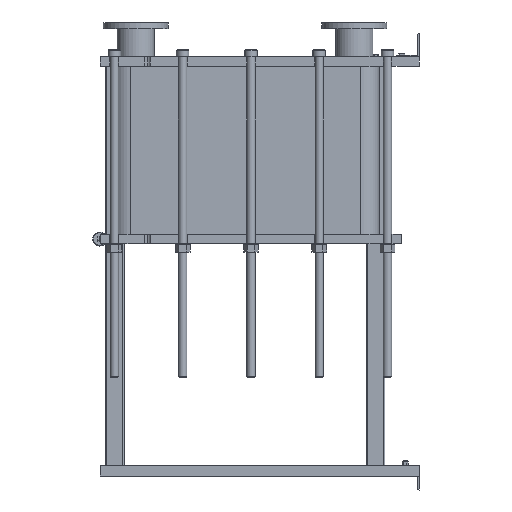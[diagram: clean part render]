
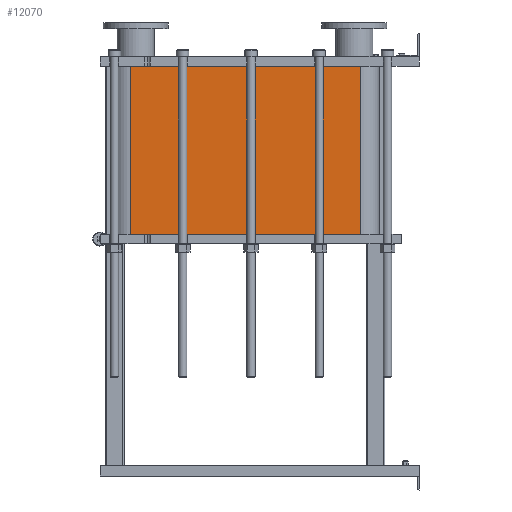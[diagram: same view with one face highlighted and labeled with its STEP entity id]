
A CAD part, left-side view. The second image highlights one B-rep face of the part: STEP entity #12070.
In plain terms, the highlighted planar face has unit normal (-1, 0, 0).
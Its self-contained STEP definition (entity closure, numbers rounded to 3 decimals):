
#1064=LINE('',#21140,#2164);
#1065=LINE('',#21144,#2165);
#1066=LINE('',#21146,#2166);
#1067=LINE('',#21147,#2167);
#2164=VECTOR('',#15790,10.);
#2165=VECTOR('',#15795,10.);
#2166=VECTOR('',#15796,10.);
#2167=VECTOR('',#15797,10.);
#3304=FACE_OUTER_BOUND('',#4091,.T.);
#4091=EDGE_LOOP('',(#9793,#9794,#9795,#9796));
#5677=VERTEX_POINT('',#21137);
#5678=VERTEX_POINT('',#21139);
#5679=VERTEX_POINT('',#21143);
#5680=VERTEX_POINT('',#21145);
#7118=EDGE_CURVE('',#5678,#5677,#1064,.T.);
#7120=EDGE_CURVE('',#5677,#5679,#1065,.T.);
#7121=EDGE_CURVE('',#5680,#5679,#1066,.T.);
#7122=EDGE_CURVE('',#5680,#5678,#1067,.T.);
#9793=ORIENTED_EDGE('',*,*,#7120,.T.);
#9794=ORIENTED_EDGE('',*,*,#7121,.F.);
#9795=ORIENTED_EDGE('',*,*,#7122,.T.);
#9796=ORIENTED_EDGE('',*,*,#7118,.T.);
#11441=PLANE('',#13191);
#12070=ADVANCED_FACE('',(#3304),#11441,.T.);
#13191=AXIS2_PLACEMENT_3D('',#21142,#15793,#15794);
#15790=DIRECTION('',(0.,0.,-1.));
#15793=DIRECTION('center_axis',(-1.,0.,0.));
#15794=DIRECTION('ref_axis',(0.,1.,0.));
#15795=DIRECTION('',(0.,-1.,0.));
#15796=DIRECTION('',(0.,0.,-1.));
#15797=DIRECTION('',(0.,1.,0.));
#21137=CARTESIAN_POINT('',(-248.152,1243.818,-724.5));
#21139=CARTESIAN_POINT('',(-248.152,1243.818,0.));
#21140=CARTESIAN_POINT('',(-248.152,1243.818,0.));
#21142=CARTESIAN_POINT('Origin',(-248.152,251.818,0.));
#21143=CARTESIAN_POINT('',(-248.152,251.818,-724.5));
#21144=CARTESIAN_POINT('',(-248.152,499.818,-724.5));
#21145=CARTESIAN_POINT('',(-248.152,251.818,0.));
#21146=CARTESIAN_POINT('',(-248.152,251.818,0.));
#21147=CARTESIAN_POINT('',(-248.152,251.818,0.));
